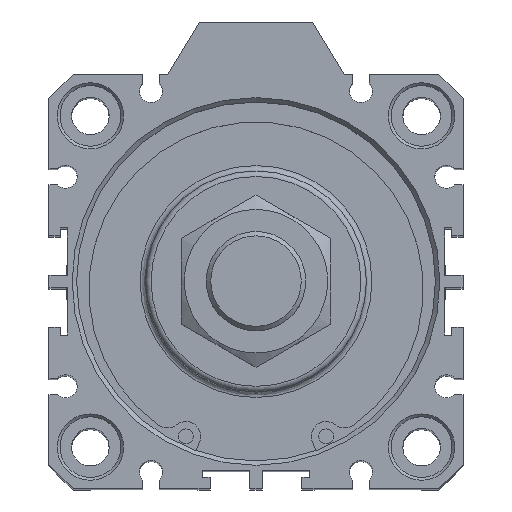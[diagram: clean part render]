
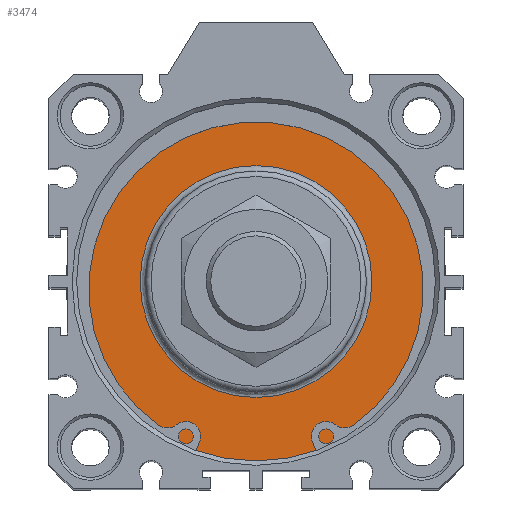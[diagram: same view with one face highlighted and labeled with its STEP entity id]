
A CAD part, top view. The second image highlights one B-rep face of the part: STEP entity #3474.
In plain terms, the highlighted planar face has unit normal (0, 0, 1).
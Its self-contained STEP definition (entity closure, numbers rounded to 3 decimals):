
#3423=CARTESIAN_POINT('',(2.99,22.555,152.3));
#3424=VERTEX_POINT('',#3423);
#3425=CARTESIAN_POINT('',(2.99,1.555,152.3));
#3426=DIRECTION('',(0.0,0.0,1.0));
#3427=DIRECTION('',(0.0,-1.0,0.0));
#3428=AXIS2_PLACEMENT_3D('',#3425,#3426,#3427);
#3429=CIRCLE('',#3428,21.);
#3430=EDGE_CURVE('',#3424,#3424,#3429,.T.);
#3455=CARTESIAN_POINT('',(2.99,27.805,152.3));
#3456=DIRECTION('',(0.0,0.0,1.0));
#3457=DIRECTION('',(1.0,0.0,0.0));
#3458=AXIS2_PLACEMENT_3D('',#3455,#3456,#3457);
#3459=PLANE('',#3458);
#3460=CARTESIAN_POINT('',(2.99,34.055,152.3));
#3461=VERTEX_POINT('',#3460);
#3462=CARTESIAN_POINT('',(2.99,1.555,152.3));
#3463=DIRECTION('',(0.0,0.0,-1.0));
#3464=DIRECTION('',(0.0,1.0,0.0));
#3465=AXIS2_PLACEMENT_3D('',#3462,#3463,#3464);
#3466=CIRCLE('',#3465,32.5);
#3467=EDGE_CURVE('',#3461,#3461,#3466,.T.);
#3468=ORIENTED_EDGE('',*,*,#3467,.F.);
#3469=EDGE_LOOP('',(#3468));
#3470=FACE_OUTER_BOUND('',#3469,.T.);
#3471=ORIENTED_EDGE('',*,*,#3430,.F.);
#3472=EDGE_LOOP('',(#3471));
#3473=FACE_BOUND('',#3472,.T.);
#3474=ADVANCED_FACE('',(#3470,#3473),#3459,.T.);
